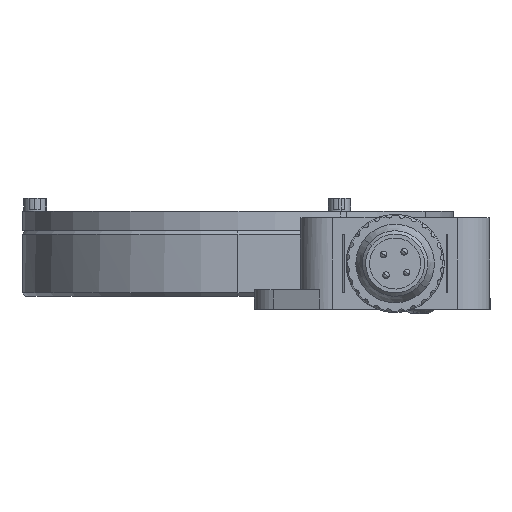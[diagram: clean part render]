
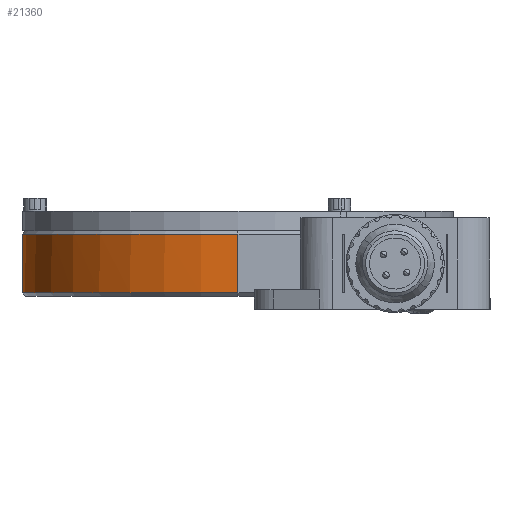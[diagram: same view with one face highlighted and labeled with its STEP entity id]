
A CAD part, left-side view. The second image highlights one B-rep face of the part: STEP entity #21360.
In plain terms, the highlighted cylindrical face has radius 33 mm (diameter 66 mm), a partial arc.
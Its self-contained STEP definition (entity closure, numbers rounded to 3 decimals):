
#16898 = CARTESIAN_POINT ( 'NONE',  ( 58.909, 12.562, 0.5 ) ) ;
#16958 = CARTESIAN_POINT ( 'NONE',  ( 66., 33., 0.5 ) ) ;
#17058 = DIRECTION ( 'NONE',  ( 1., 0., 0. ) ) ;
#17059 = DIRECTION ( 'NONE',  ( 0., 0., 1. ) ) ;
#17060 = CARTESIAN_POINT ( 'NONE',  ( 33., 33., 0.5 ) ) ;
#17061 = AXIS2_PLACEMENT_3D ( 'NONE', #17060, #17059, #17058 ) ;
#17066 = CIRCLE ( 'NONE', #17061, 33. ) ;
#18062 = FACE_OUTER_BOUND ( 'NONE', #21362, .T. ) ;
#18063 = CARTESIAN_POINT ( 'NONE',  ( 58.909, 12.562, 9.5 ) ) ;
#18064 = DIRECTION ( 'NONE',  ( 0., 0., 1. ) ) ;
#18065 = VECTOR ( 'NONE', #18064, 1000. ) ;
#18066 = CARTESIAN_POINT ( 'NONE',  ( 58.909, 12.562, 0. ) ) ;
#18067 = LINE ( 'NONE', #18066, #18065 ) ;
#18096 = DIRECTION ( 'NONE',  ( -1., 0., 0. ) ) ;
#18097 = DIRECTION ( 'NONE',  ( 0., 0., -1. ) ) ;
#18098 = CARTESIAN_POINT ( 'NONE',  ( 33., 33., 10. ) ) ;
#18099 = AXIS2_PLACEMENT_3D ( 'NONE', #18098, #18097, #18096 ) ;
#18102 = CYLINDRICAL_SURFACE ( 'NONE', #18099, 33. ) ;
#18113 = CARTESIAN_POINT ( 'NONE',  ( 0., 33., 0.5 ) ) ;
#18114 = DIRECTION ( 'NONE',  ( 1., 0., 0. ) ) ;
#18115 = DIRECTION ( 'NONE',  ( 0., 0., -1. ) ) ;
#18116 = CARTESIAN_POINT ( 'NONE',  ( 33., 33., 9.5 ) ) ;
#18117 = AXIS2_PLACEMENT_3D ( 'NONE', #18116, #18115, #18114 ) ;
#18118 = CIRCLE ( 'NONE', #18117, 33. ) ;
#18136 = DIRECTION ( 'NONE',  ( 0., 0., 1. ) ) ;
#18137 = CARTESIAN_POINT ( 'NONE',  ( 0., 33., 0. ) ) ;
#18138 = LINE ( 'NONE', #18137, #18190 ) ;
#18139 = CARTESIAN_POINT ( 'NONE',  ( 0., 33., 9.5 ) ) ;
#18185 = DIRECTION ( 'NONE',  ( 1., 0., 0. ) ) ;
#18186 = DIRECTION ( 'NONE',  ( 0., 0., 1. ) ) ;
#18187 = CARTESIAN_POINT ( 'NONE',  ( 33., 33., 0.5 ) ) ;
#18188 = AXIS2_PLACEMENT_3D ( 'NONE', #18187, #18186, #18185 ) ;
#18189 = CIRCLE ( 'NONE', #18188, 33. ) ;
#18190 = VECTOR ( 'NONE', #18136, 1000. ) ;
#20991 = VERTEX_POINT ( 'NONE', #16898 ) ;
#21012 = VERTEX_POINT ( 'NONE', #16958 ) ;
#21042 = EDGE_CURVE ( 'NONE', #20991, #21012, #17066, .T. ) ;
#21334 = ORIENTED_EDGE ( 'NONE', *, *, #21358, .F. ) ;
#21358 = EDGE_CURVE ( 'NONE', #20991, #21359, #18067, .T. ) ;
#21359 = VERTEX_POINT ( 'NONE', #18063 ) ;
#21360 = ADVANCED_FACE ( 'NONE', ( #18062 ), #18102, .T. ) ;
#21362 = EDGE_LOOP ( 'NONE', ( #21334, #21363, #21384, #21386, #21382 ) ) ;
#21363 = ORIENTED_EDGE ( 'NONE', *, *, #21042, .T. ) ;
#21370 = EDGE_CURVE ( 'NONE', #21381, #21359, #18118, .T. ) ;
#21371 = VERTEX_POINT ( 'NONE', #18113 ) ;
#21381 = VERTEX_POINT ( 'NONE', #18139 ) ;
#21382 = ORIENTED_EDGE ( 'NONE', *, *, #21370, .T. ) ;
#21383 = EDGE_CURVE ( 'NONE', #21371, #21381, #18138, .T. ) ;
#21384 = ORIENTED_EDGE ( 'NONE', *, *, #21385, .T. ) ;
#21385 = EDGE_CURVE ( 'NONE', #21012, #21371, #18189, .T. ) ;
#21386 = ORIENTED_EDGE ( 'NONE', *, *, #21383, .T. ) ;
